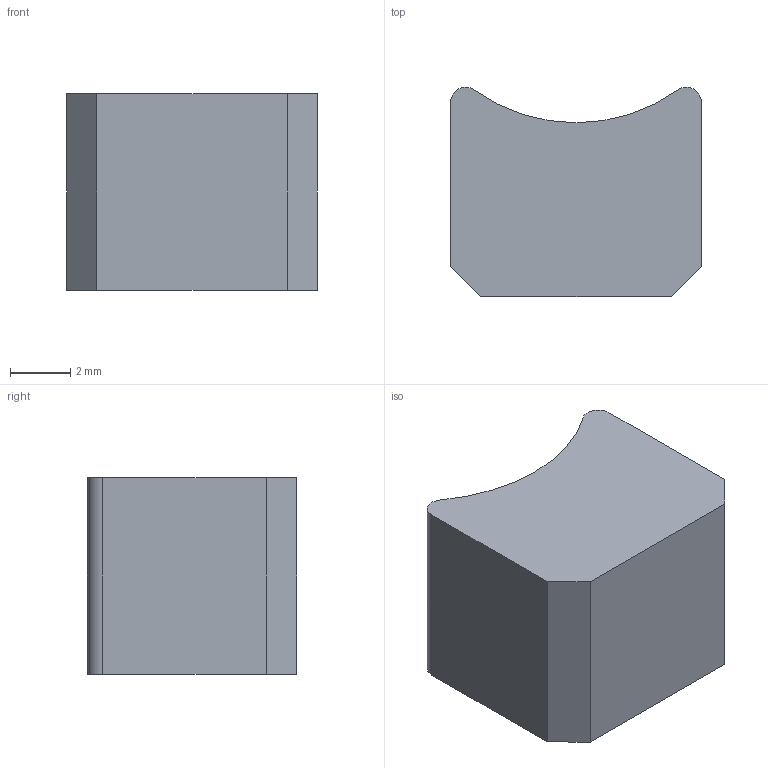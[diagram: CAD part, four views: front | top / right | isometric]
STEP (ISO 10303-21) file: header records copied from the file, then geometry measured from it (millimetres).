
FILE_DESCRIPTION (( 'STEP AP214' ), '1' );
FILE_NAME ('TAT0010043-11-B2阀体限位块.STEP', '2021-04-23T05:25:58', ( '微软中国' ), ( 'Microsoft' ), 'SwSTEP 2.0', 'SolidWorks 2017', '' );
FILE_SCHEMA (( 'AUTOMOTIVE_DESIGN' ));
Length unit declared in the file: millimetre
Products named in the file (1): TAT0010043-11-B2概极癹弇輸
Bounding box: 8.3 x 6.93 x 6.5 mm (x, y, z)
Volume: 330.1 mm3; surface area: 292.3 mm2
Topology: 1 solids, 1 shells, 10 faces, 24 edges, 16 vertices
Faces by surface type: plane 7, cylinder 3
Entity records: 328 total; most frequent: DIRECTION 52, CARTESIAN_POINT 51, ORIENTED_EDGE 48, EDGE_CURVE 24, VECTOR 18, LINE 18, AXIS2_PLACEMENT_3D 17, VERTEX_POINT 16
